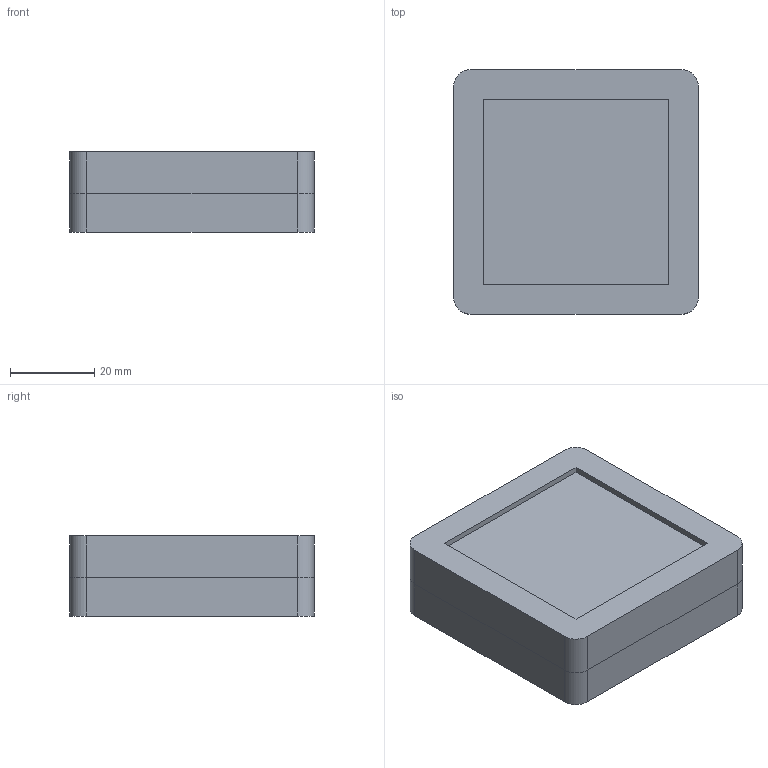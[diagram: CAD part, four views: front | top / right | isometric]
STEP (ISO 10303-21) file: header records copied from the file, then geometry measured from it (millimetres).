
FILE_DESCRIPTION(('FreeCAD Model'),'2;1');
FILE_NAME('Open CASCADE Shape Model','2026-10-10T16:21:40',(''),(''), 'Open CASCADE STEP processor 7.8','FreeCAD','Unknown');
FILE_SCHEMA(('AUTOMOTIVE_DESIGN { 1 0 10303 214 1 1 1 1 }'));
Length unit declared in the file: millimetre
Products named in the file (4): Entropy_Box_V3_Deep_Base; Entropy_Box_V3_Lid_Closed_REFERENCE; ClearPanel_50x50x2_REFERENCE; Dice_25_REFERENCE
Bounding box: 58 x 58 x 19 mm (x, y, z)
Volume: 40570.3 mm3; surface area: 32941.9 mm2
Topology: 28 solids, 28 shells, 846 faces, 2008 edges, 1292 vertices
Faces by surface type: bspline 846
Entity records: 49798 total; most frequent: CARTESIAN_POINT 22885, B_SPLINE_CURVE_WITH_KNOTS 5952, ORIENTED_EDGE 4016, PCURVE 4016, DEFINITIONAL_REPRESENTATION 4016, EDGE_CURVE 2008, SURFACE_CURVE 2008, VERTEX_POINT 1292
